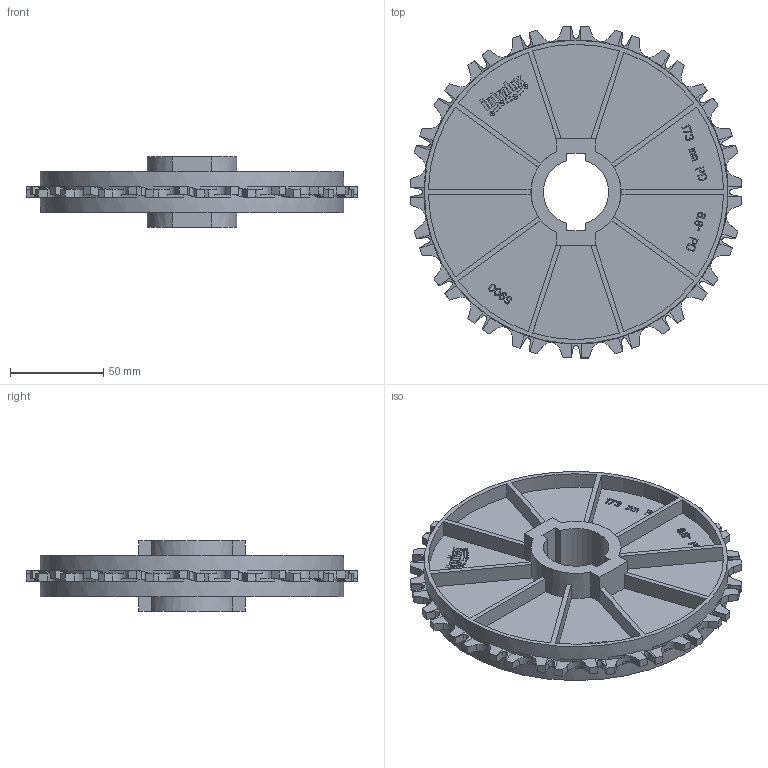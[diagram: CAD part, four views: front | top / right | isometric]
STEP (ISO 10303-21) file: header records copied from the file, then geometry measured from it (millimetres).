
FILE_DESCRIPTION((''),'2;1');
FILE_NAME('S900_SPROCKET_68X1-3_16_PILOT','2008-12-12T',('jmumphre'),(''),'PRO/ENGINEER BY PARAMETRIC TECHNOLOGY CORPORATION, 2008150','PRO/ENGINEER BY PARAMETRIC TECHNOLOGY CORPORATION, 2008150','');
FILE_SCHEMA(('CONFIG_CONTROL_DESIGN'));
Length unit declared in the file: inch
Products named in the file (1): S900_SPROCKET_68X1-3_16_PILOT
Bounding box: 177.86 x 177.86 x 37.59 mm (x, y, z)
Volume: 177322.3 mm3; surface area: 94288.7 mm2
Topology: 1 solids, 1 shells, 1263 faces, 3725 edges, 2510 vertices
Faces by surface type: plane 1103, cylinder 160
Entity records: 42612 total; most frequent: CARTESIAN_POINT 8715, ORIENTED_EDGE 7450, DIRECTION 6467, EDGE_CURVE 3725, VECTOR 3181, LINE 3181, VERTEX_POINT 2510, AXIS2_PLACEMENT_3D 1643
